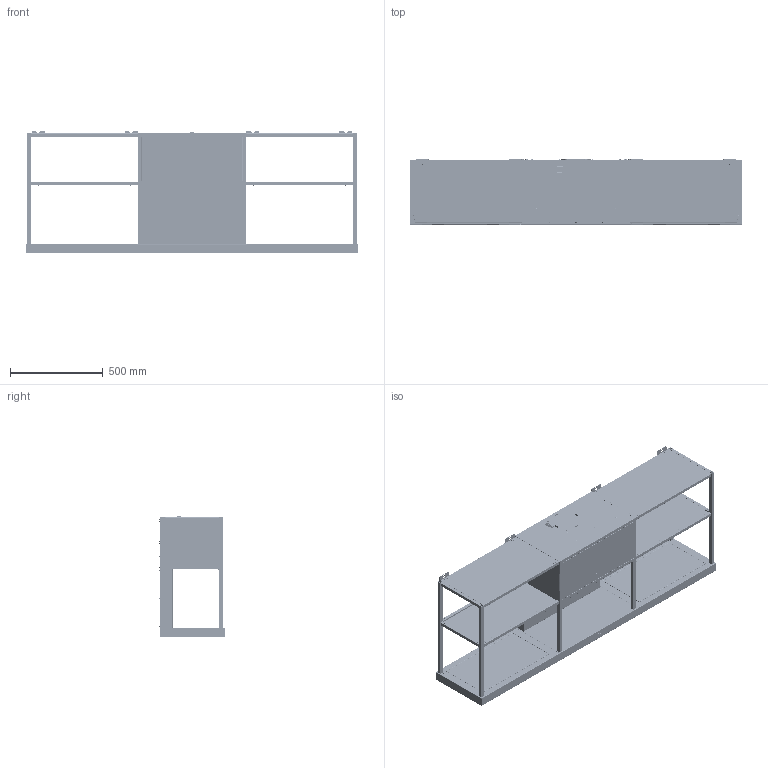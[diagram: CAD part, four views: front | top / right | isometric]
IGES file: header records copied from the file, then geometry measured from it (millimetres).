
Global section: file name: F:\_CONVERSIONE_CAD_2024_2025\_2024\03_3D kits new\Hoods\335.0706.646 3D001_Hoods_Maris_Modular\3D001_Hoods_Maris_Modular.igs; native system: Rhinoceros ( Feb 13 2024 ); preprocessor: Trout Lake IGES 012 Feb 13 2024; date: 240319.095637; units: millimetre
Bounding box: 1794 x 352.7 x 664.6 mm (x, y, z)
Surface area: 9474027.9 mm2 (no closed solid volume)
Topology: 0 solids, 0 shells, 9605 faces, 48951 edges, 48819 vertices
Faces by surface type: bspline 9605
